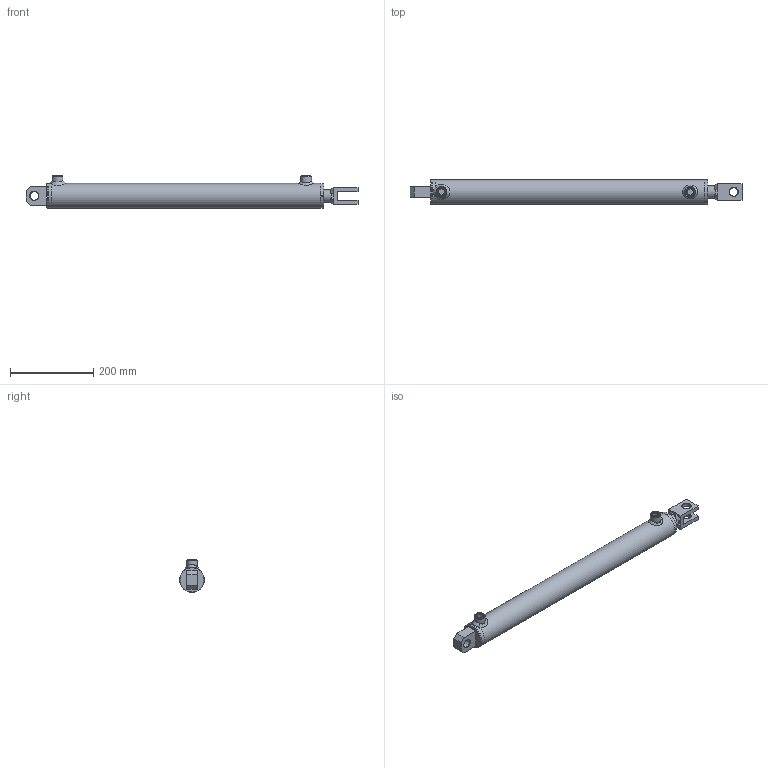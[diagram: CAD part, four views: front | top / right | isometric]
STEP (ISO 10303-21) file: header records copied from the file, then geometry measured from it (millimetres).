
FILE_DESCRIPTION( ( 'Unknown' ), '1' );
FILE_NAME( 'E:/LIBRERIA_3d/CILINDRI/HM5/HM52300550.stp', 'Unknown', ( 'Unknown' ), ( 'Unknown' ), 'PSStep 17.0.49', 'Unknown', ' ' );
FILE_SCHEMA( ( 'AUTOMOTIVE_DESIGN { 1 0 10303 214 1 1 1 1 }' ) );
Length unit declared in the file: millimetre
Products named in the file (24): HM02300550; Assem1; COF2000000; Saldatura d'angolo 2-oa0; CFS0000020; CSCS004010
Assembly tree (16 placements, depth 3):
  Assem1
    COF2000000
    CFS0000020
    CSCS004010  x2
    HM02300550
      HM02300550
      HM02300550
      HM02300550
      HM02300550
      HM02300550
      HM02300550
      HM02300550
      HM02300550
      HM02300550
      HM02300550
      HM02300550
  Saldatura d'angolo 2-oa0
  Saldatura d'angolo 2-oa0
  Saldatura d'angolo 2-oa0
  Saldatura d'angolo 2-oa0
Bounding box: 800 x 60 x 79 mm (x, y, z)
Volume: 97364.7 mm3; surface area: 228664.4 mm2
Topology: 12 solids, 63 shells, 142 faces, 359 edges, 255 vertices
Faces by surface type: plane 61, cylinder 38, cone 33, torus 5, bspline 5
Full cylindrical faces by diameter (mm): 4 x2, 4.25 x3, 5 x2, 14.95 x2, 16 x2, 20.25 x3, 22 x2, 26 x2, 30 x1, 38.6 x1, 59 x1, 60 x3
Entity records: 5926 total; most frequent: CARTESIAN_POINT 2114, DIRECTION 686, ORIENTED_EDGE 418, AXIS2_PLACEMENT_3D 291, EDGE_CURVE 262, VERTEX_POINT 223, EDGE_LOOP 201, CIRCLE 136
